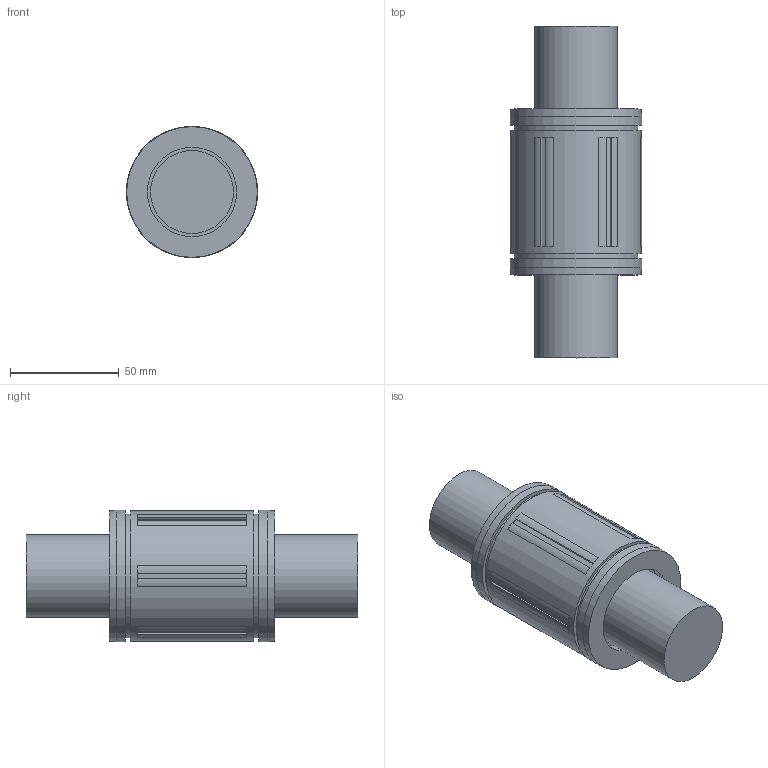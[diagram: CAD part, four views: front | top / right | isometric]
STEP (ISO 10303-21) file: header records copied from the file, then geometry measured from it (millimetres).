
FILE_DESCRIPTION((''),'2;1');
FILE_NAME('D:\STEP\SUPER\LMBS\LMBS24.stp','2013-02-14T08:05:24',('user2'),(''),'Autodesk Inventor 2012','Autodesk Inventor 2012','');
FILE_SCHEMA(('AUTOMOTIVE_DESIGN { 1 0 10303 214 1 1 1 1 }'));
Length unit declared in the file: millimetre
Products named in the file (1): LMBS24
Bounding box: 60.33 x 152.4 x 60.33 mm (x, y, z)
Volume: 299438.3 mm3; surface area: 33432.4 mm2
Topology: 1 solids, 1 shells, 99 faces, 226 edges, 142 vertices
Faces by surface type: plane 76, cylinder 21, cone 2
Full cylindrical faces by diameter (mm): 38.1 x2, 41 x2, 56.87 x2, 60 x1, 60.325 x2
Entity records: 2744 total; most frequent: DIRECTION 492, CARTESIAN_POINT 452, ORIENTED_EDGE 424, EDGE_CURVE 212, AXIS2_PLACEMENT_3D 180, VERTEX_POINT 140, VECTOR 132, LINE 132
